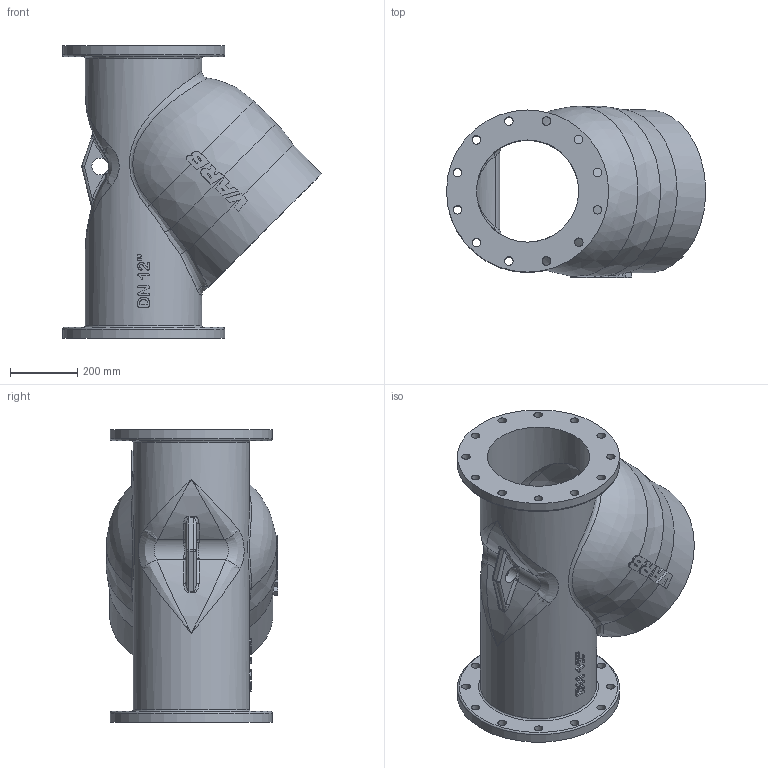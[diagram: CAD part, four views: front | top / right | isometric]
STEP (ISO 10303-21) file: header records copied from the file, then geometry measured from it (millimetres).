
FILE_DESCRIPTION( ( 'Unknown' ), '1' );
FILE_NAME( 'C:/Users/Bruna da Silva/Desktop/VARB/2022/03MARCO/FILTRO 12/FILTRO_12.stp', 'Unknown', ( 'Unknown' ), ( 'Unknown' ), 'PSStep 11.0', 'Unknown', ' ' );
FILE_SCHEMA( ( 'AUTOMOTIVE_DESIGN { 1 0 10303 214 1 1 1 1 }' ) );
Length unit declared in the file: millimetre
Products named in the file (1): 1
Bounding box: 770.81 x 510.49 x 870 mm (x, y, z)
Volume: 34024000.2 mm3; surface area: 3025018 mm2
Topology: 1 solids, 1 shells, 236 faces, 601 edges, 389 vertices
Faces by surface type: plane 84, cylinder 83, bspline 42, torus 12, extrusion 8, cone 5, sphere 2
Full cylindrical faces by diameter (mm): 19 x12, 25.4 x24, 50 x1, 304 x1, 346 x1, 482.6 x2
Entity records: 25390 total; most frequent: CARTESIAN_POINT 18314, ORIENTED_EDGE 1038, DIRECTION 1004, EDGE_CURVE 519, AXIS2_PLACEMENT_3D 444, EDGE_LOOP 365, VERTEX_POINT 360, FACE_OUTER_BOUND 283
